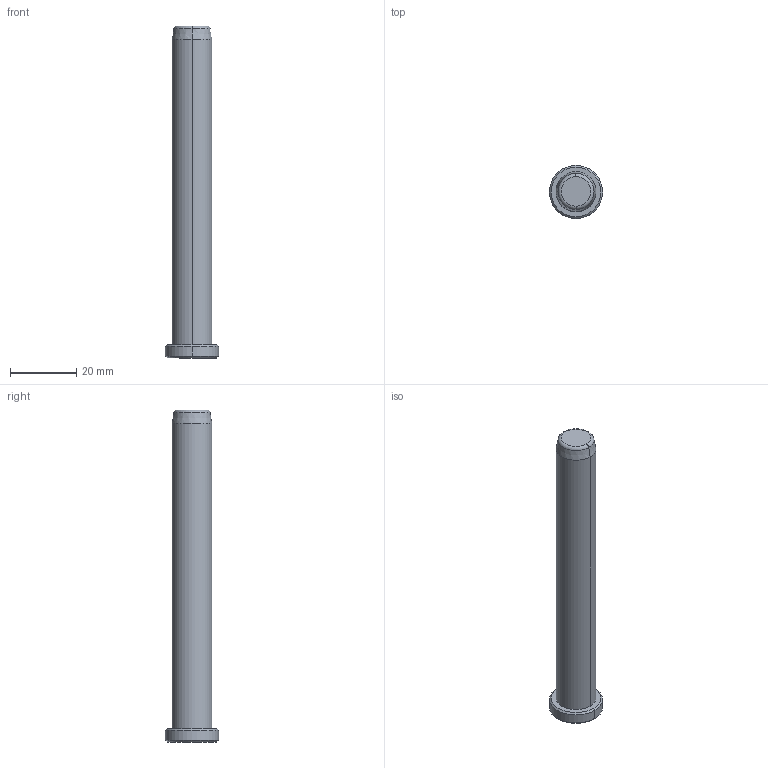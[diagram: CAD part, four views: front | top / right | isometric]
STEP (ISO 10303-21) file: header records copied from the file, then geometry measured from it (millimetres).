
FILE_DESCRIPTION((''),'2;1');
FILE_NAME('B81812100','2018-01-06T',('MANU'),(''),'PRO/ENGINEER BY PARAMETRIC TECHNOLOGY CORPORATION, 2012130','PRO/ENGINEER BY PARAMETRIC TECHNOLOGY CORPORATION, 2012130','');
FILE_SCHEMA(('CONFIG_CONTROL_DESIGN'));
Length unit declared in the file: millimetre
Products named in the file (1): B81812100
Bounding box: 16 x 16 x 100 mm (x, y, z)
Volume: 11593.6 mm3; surface area: 4150.8 mm2
Topology: 1 solids, 1 shells, 15 faces, 28 edges, 16 vertices
Faces by surface type: cone 6, cylinder 4, plane 3, torus 2
Entity records: 414 total; most frequent: DIRECTION 76, CARTESIAN_POINT 59, ORIENTED_EDGE 56, AXIS2_PLACEMENT_3D 33, EDGE_CURVE 28, CIRCLE 18, VERTEX_POINT 16, EDGE_LOOP 16
